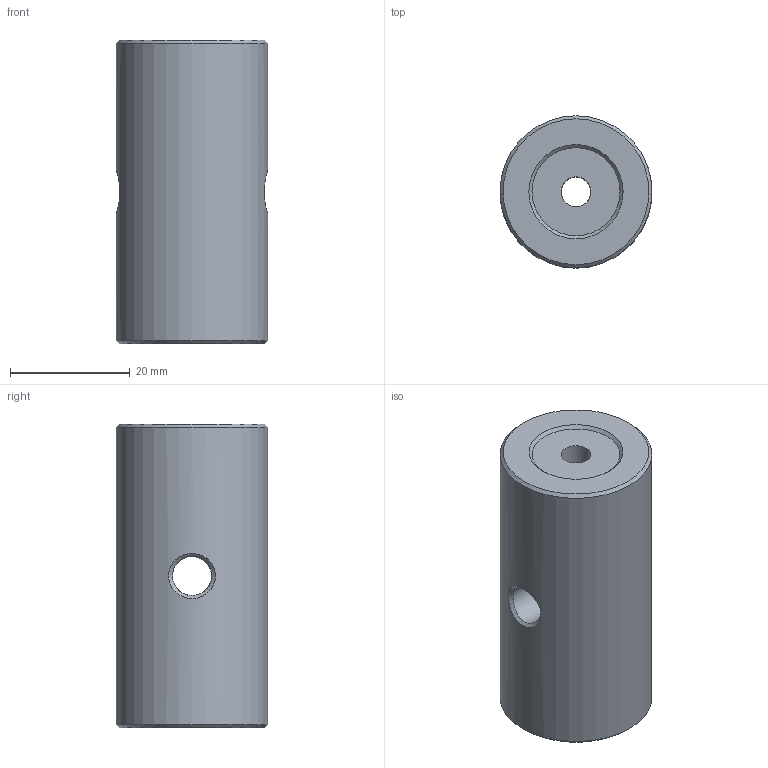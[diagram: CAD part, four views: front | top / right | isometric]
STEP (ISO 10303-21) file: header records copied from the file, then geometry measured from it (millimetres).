
FILE_DESCRIPTION(/* description */ ('Alibre Inc.'),/* implementation_level */ '2;1');
FILE_NAME(/* name */ 'export0',/* time_stamp */ '2014-02-03T22:21:06-05:00',/* author */ (''),/* organization */ (''),/* preprocessor_version */ 'ST-DEVELOPER v14',/* originating_system */ 'Alibre',/* authorisation */ '');
FILE_SCHEMA (('CONFIG_CONTROL_DESIGN'));
Length unit declared in the file: centimetre
Products named in the file (1): ID_1
Bounding box: 25.4 x 25.4 x 50.8 mm (x, y, z)
Volume: 23832.3 mm3; surface area: 6079.4 mm2
Topology: 1 solids, 1 shells, 14 faces, 30 edges, 19 vertices
Faces by surface type: cone 4, cylinder 4, plane 4, bspline 2
Full cylindrical faces by diameter (mm): 4.978 x2, 6.528 x1, 25.4 x1
Entity records: 1126 total; most frequent: CARTESIAN_POINT 795, DIRECTION 40, ORIENTED_EDGE 36, EDGE_LOOP 30, FACE_BOUND 30, AXIS2_PLACEMENT_3D 21, EDGE_CURVE 18, VERTEX_POINT 16
